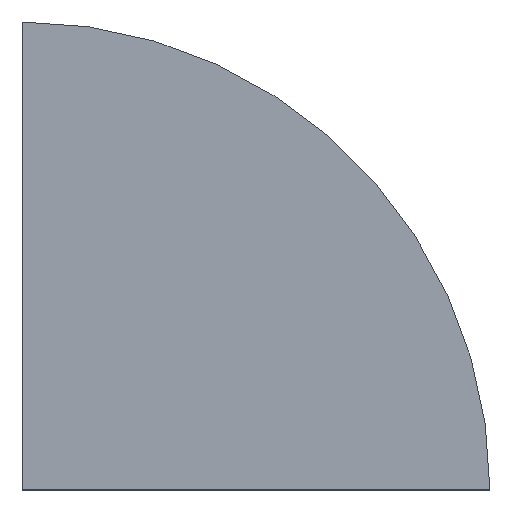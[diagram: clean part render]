
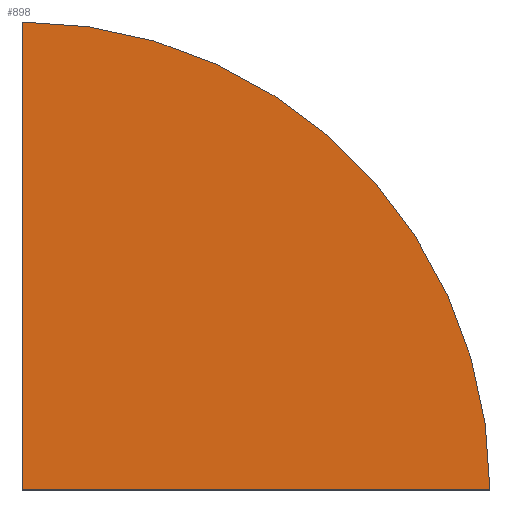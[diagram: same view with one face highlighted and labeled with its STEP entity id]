
A CAD part, top view. The second image highlights one B-rep face of the part: STEP entity #898.
In plain terms, the highlighted planar face has unit normal (0, 0, 1).
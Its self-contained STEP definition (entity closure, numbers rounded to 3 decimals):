
#24=CIRCLE('',#959,30.);
#125=ORIENTED_EDGE('',*,*,#355,.T.);
#126=ORIENTED_EDGE('',*,*,#359,.T.);
#127=ORIENTED_EDGE('',*,*,#361,.T.);
#355=EDGE_CURVE('',#470,#469,#24,.T.);
#359=EDGE_CURVE('',#469,#472,#566,.T.);
#361=EDGE_CURVE('',#472,#470,#568,.T.);
#469=VERTEX_POINT('',#1380);
#470=VERTEX_POINT('',#1382);
#472=VERTEX_POINT('',#1388);
#566=LINE('',#1389,#688);
#568=LINE('',#1392,#690);
#688=VECTOR('',#1111,1000.);
#690=VECTOR('',#1115,1000.);
#751=EDGE_LOOP('',(#125,#126,#127));
#803=FACE_BOUND('',#751,.T.);
#851=PLANE('',#962);
#898=ADVANCED_FACE('',(#803),#851,.T.);
#959=AXIS2_PLACEMENT_3D('',#1381,#1104,#1105);
#962=AXIS2_PLACEMENT_3D('',#1393,#1116,#1117);
#1104=DIRECTION('',(0.,0.,1.));
#1105=DIRECTION('',(-1.,0.,0.));
#1111=DIRECTION('',(0.,-1.,0.));
#1115=DIRECTION('',(1.,0.,0.));
#1116=DIRECTION('',(0.,0.,1.));
#1117=DIRECTION('',(1.,0.,0.));
#1380=CARTESIAN_POINT('',(-15.,15.,5.));
#1381=CARTESIAN_POINT('',(-15.,-15.,5.));
#1382=CARTESIAN_POINT('',(15.,-15.,5.));
#1388=CARTESIAN_POINT('',(-15.,-15.,5.));
#1389=CARTESIAN_POINT('',(-15.,15.,5.));
#1392=CARTESIAN_POINT('',(-15.,-15.,5.));
#1393=CARTESIAN_POINT('',(-15.,-15.,5.));
